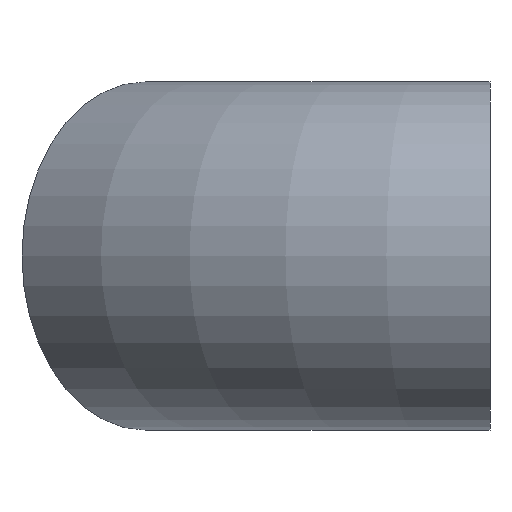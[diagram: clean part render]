
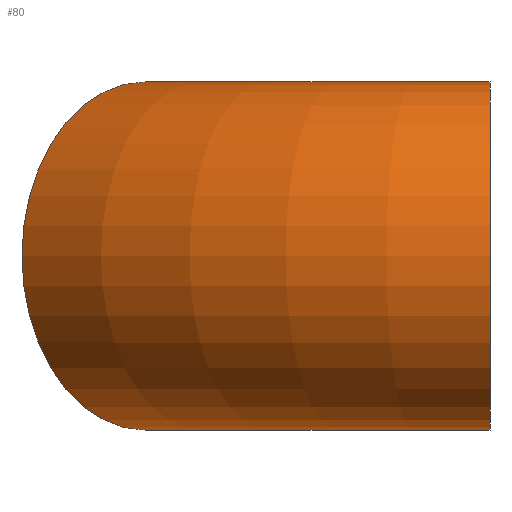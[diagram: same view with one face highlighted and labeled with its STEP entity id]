
A CAD part, left-side view. The second image highlights one B-rep face of the part: STEP entity #80.
In plain terms, the highlighted toroidal (fillet/blend) face has major radius 38.1 mm and minor radius 13.6 mm.
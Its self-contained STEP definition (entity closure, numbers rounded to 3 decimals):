
#20=FACE_OUTER_BOUND('',#24,.T.);
#24=EDGE_LOOP('',(#63,#64,#65,#66,#67,#68));
#34=CIRCLE('',#110,13.6);
#35=CIRCLE('',#111,13.6);
#36=CIRCLE('',#112,24.5);
#37=CIRCLE('',#113,13.6);
#38=CIRCLE('',#114,13.6);
#43=VERTEX_POINT('',#159);
#44=VERTEX_POINT('',#160);
#45=VERTEX_POINT('',#163);
#46=VERTEX_POINT('',#165);
#52=EDGE_CURVE('',#43,#44,#34,.T.);
#53=EDGE_CURVE('',#44,#43,#35,.T.);
#54=EDGE_CURVE('',#44,#45,#36,.T.);
#55=EDGE_CURVE('',#45,#46,#37,.T.);
#56=EDGE_CURVE('',#46,#45,#38,.T.);
#63=ORIENTED_EDGE('',*,*,#52,.F.);
#64=ORIENTED_EDGE('',*,*,#53,.F.);
#65=ORIENTED_EDGE('',*,*,#54,.T.);
#66=ORIENTED_EDGE('',*,*,#55,.T.);
#67=ORIENTED_EDGE('',*,*,#56,.T.);
#68=ORIENTED_EDGE('',*,*,#54,.F.);
#78=TOROIDAL_SURFACE('',#109,38.1,13.6);
#80=ADVANCED_FACE('',(#20),#78,.T.);
#109=AXIS2_PLACEMENT_3D('',#158,#131,#132);
#110=AXIS2_PLACEMENT_3D('',#161,#133,#134);
#111=AXIS2_PLACEMENT_3D('',#162,#135,#136);
#112=AXIS2_PLACEMENT_3D('',#164,#137,#138);
#113=AXIS2_PLACEMENT_3D('',#166,#139,#140);
#114=AXIS2_PLACEMENT_3D('',#167,#141,#142);
#131=DIRECTION('center_axis',(0.,0.,-1.));
#132=DIRECTION('ref_axis',(-1.,0.,0.));
#133=DIRECTION('center_axis',(0.707,0.707,0.));
#134=DIRECTION('ref_axis',(-0.707,0.707,0.));
#135=DIRECTION('center_axis',(0.707,0.707,0.));
#136=DIRECTION('ref_axis',(-0.707,0.707,0.));
#137=DIRECTION('center_axis',(0.,0.,1.));
#138=DIRECTION('ref_axis',(-1.,0.,0.));
#139=DIRECTION('center_axis',(0.,1.,0.));
#140=DIRECTION('ref_axis',(-1.,0.,0.));
#141=DIRECTION('center_axis',(0.,1.,0.));
#142=DIRECTION('ref_axis',(-1.,0.,0.));
#158=CARTESIAN_POINT('Origin',(0.,0.,0.));
#159=CARTESIAN_POINT('',(-36.557,36.557,0.));
#160=CARTESIAN_POINT('',(-17.324,17.324,0.));
#161=CARTESIAN_POINT('Origin',(-26.941,26.941,0.));
#162=CARTESIAN_POINT('Origin',(-26.941,26.941,0.));
#163=CARTESIAN_POINT('',(-24.5,0.,0.));
#164=CARTESIAN_POINT('Origin',(0.,0.,0.));
#165=CARTESIAN_POINT('',(-51.7,0.,0.));
#166=CARTESIAN_POINT('Origin',(-38.1,0.,0.));
#167=CARTESIAN_POINT('Origin',(-38.1,0.,0.));
